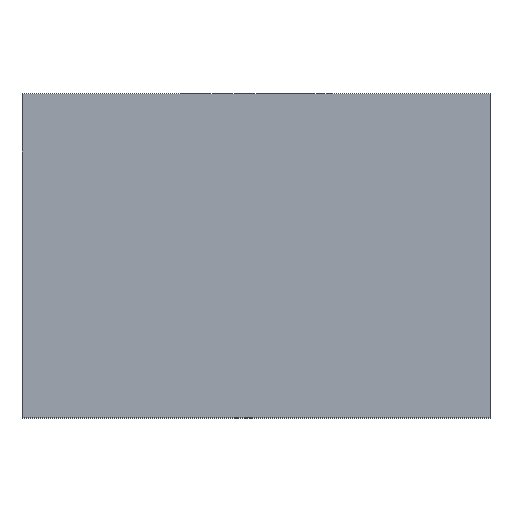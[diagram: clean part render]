
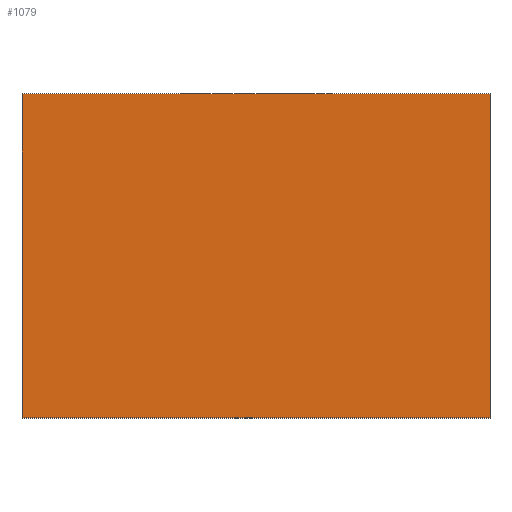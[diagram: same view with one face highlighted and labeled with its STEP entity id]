
A CAD part, top view. The second image highlights one B-rep face of the part: STEP entity #1079.
In plain terms, the highlighted planar face has unit normal (0, 0, 1).
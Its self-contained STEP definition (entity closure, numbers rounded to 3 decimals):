
#23 = AXIS2_PLACEMENT_3D ( 'NONE', #698, #1059, #444 ) ;
#129 = VERTEX_POINT ( 'NONE', #632 ) ;
#148 = LINE ( 'NONE', #871, #218 ) ;
#150 = CARTESIAN_POINT ( 'NONE',  ( 0., 0., 22.5 ) ) ;
#156 = EDGE_CURVE ( 'NONE', #1154, #129, #737, .T. ) ;
#198 = VECTOR ( 'NONE', #314, 1000. ) ;
#205 = CARTESIAN_POINT ( 'NONE',  ( 0., 72., 22.5 ) ) ;
#218 = VECTOR ( 'NONE', #939, 1000. ) ;
#240 = ORIENTED_EDGE ( 'NONE', *, *, #428, .T. ) ;
#284 = EDGE_CURVE ( 'NONE', #432, #763, #594, .T. ) ;
#290 = CARTESIAN_POINT ( 'NONE',  ( 104., 0., 22.5 ) ) ;
#314 = DIRECTION ( 'NONE',  ( 1., 0., 0. ) ) ;
#372 = DIRECTION ( 'NONE',  ( -1., 0., 0. ) ) ;
#428 = EDGE_CURVE ( 'NONE', #129, #432, #961, .T. ) ;
#432 = VERTEX_POINT ( 'NONE', #513 ) ;
#444 = DIRECTION ( 'NONE',  ( -1., 0., 0. ) ) ;
#461 = VECTOR ( 'NONE', #606, 1000. ) ;
#502 = EDGE_CURVE ( 'NONE', #763, #1154, #148, .T. ) ;
#508 = CARTESIAN_POINT ( 'NONE',  ( 104., 72., 22.5 ) ) ;
#513 = CARTESIAN_POINT ( 'NONE',  ( 0., 0., 22.5 ) ) ;
#572 = ORIENTED_EDGE ( 'NONE', *, *, #502, .T. ) ;
#583 = EDGE_LOOP ( 'NONE', ( #240, #677, #572, #945 ) ) ;
#594 = LINE ( 'NONE', #1126, #198 ) ;
#601 = FACE_OUTER_BOUND ( 'NONE', #583, .T. ) ;
#606 = DIRECTION ( 'NONE',  ( 0., -1., 0. ) ) ;
#626 = VECTOR ( 'NONE', #372, 1000. ) ;
#632 = CARTESIAN_POINT ( 'NONE',  ( 0., 72., 22.5 ) ) ;
#677 = ORIENTED_EDGE ( 'NONE', *, *, #284, .T. ) ;
#698 = CARTESIAN_POINT ( 'NONE',  ( 0., 0., 22.5 ) ) ;
#737 = LINE ( 'NONE', #205, #626 ) ;
#763 = VERTEX_POINT ( 'NONE', #290 ) ;
#871 = CARTESIAN_POINT ( 'NONE',  ( 104., 0., 22.5 ) ) ;
#939 = DIRECTION ( 'NONE',  ( 0., 1., 0. ) ) ;
#945 = ORIENTED_EDGE ( 'NONE', *, *, #156, .T. ) ;
#961 = LINE ( 'NONE', #150, #461 ) ;
#964 = PLANE ( 'NONE',  #23 ) ;
#1059 = DIRECTION ( 'NONE',  ( 0., 0., -1. ) ) ;
#1079 = ADVANCED_FACE ( 'NONE', ( #601 ), #964, .F. ) ;
#1126 = CARTESIAN_POINT ( 'NONE',  ( 0., 0., 22.5 ) ) ;
#1154 = VERTEX_POINT ( 'NONE', #508 ) ;
